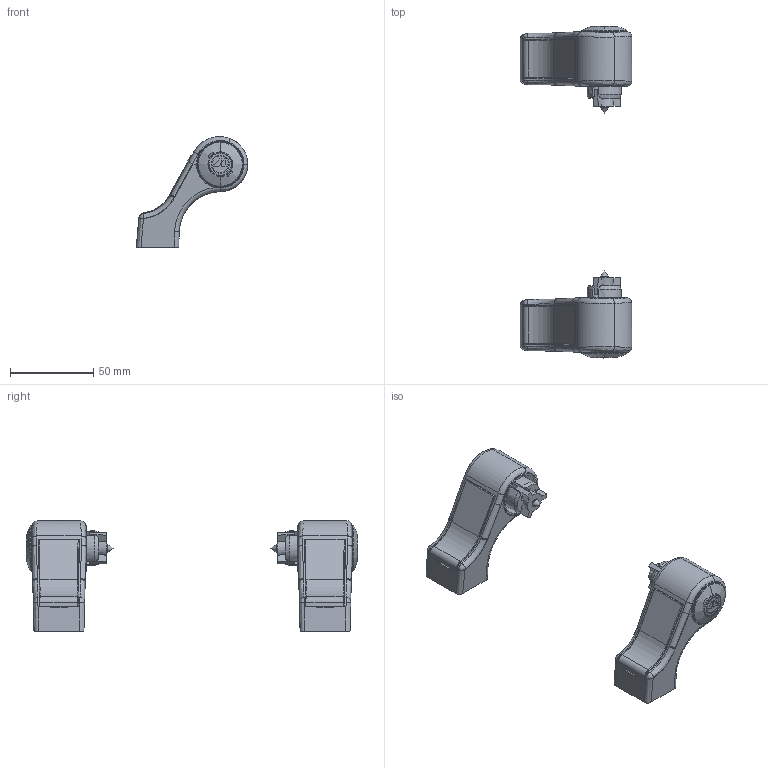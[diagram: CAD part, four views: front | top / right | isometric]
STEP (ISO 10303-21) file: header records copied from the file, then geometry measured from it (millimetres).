
FILE_DESCRIPTION (( 'STEP AP214' ), '1' );
FILE_NAME ('F31111AA.step', '2024-12-03T16:17:01', ( '' ), ( '' ), 'SwSTEP 2.0', 'SolidWorks 2023', '' );
FILE_SCHEMA (( 'AUTOMOTIVE_DESIGN' ));
Length unit declared in the file: millimetre
Products named in the file (1): F31111AA
Bounding box: 67 x 199.6 x 66.57 mm (x, y, z)
Surface area: 36951 mm2 (no closed solid volume)
Topology: 0 solids, 18 shells, 612 faces, 2187 edges, 1532 vertices
Faces by surface type: bspline 230, plane 195, cylinder 163, cone 24
Full cylindrical faces by diameter (mm): 4.8 x2, 7 x2, 8.5 x2, 10 x2, 11 x2, 27 x2
Entity records: 51625 total; most frequent: CARTESIAN_POINT 36739, ORIENTED_EDGE 3465, EDGE_CURVE 2137, DIRECTION 2079, VERTEX_POINT 1518, B_SPLINE_CURVE_WITH_KNOTS 839, VECTOR 799, LINE 799
